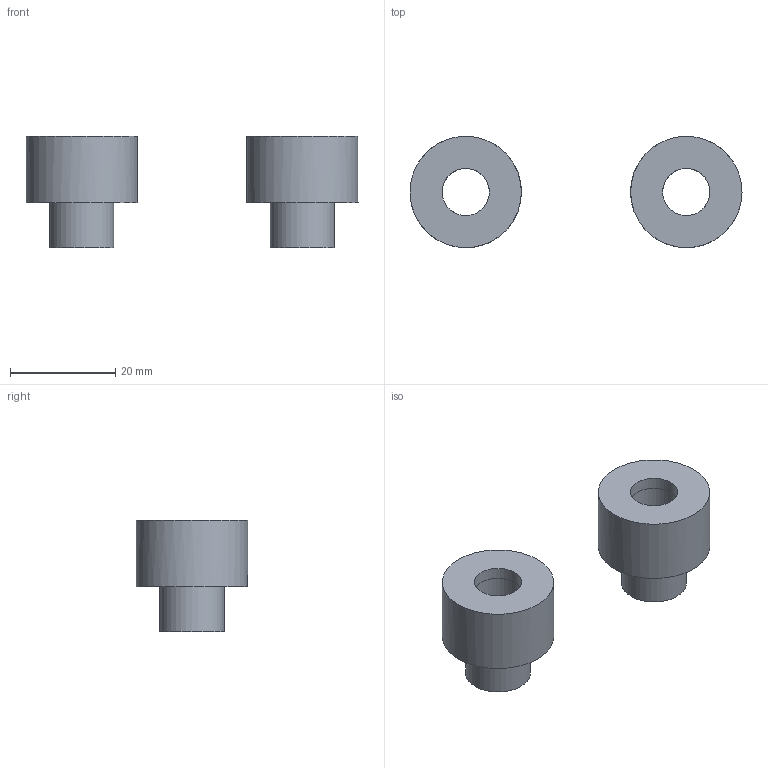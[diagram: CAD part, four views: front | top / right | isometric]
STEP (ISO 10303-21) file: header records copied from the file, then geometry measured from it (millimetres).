
FILE_DESCRIPTION(('HOOPS Exchange Step'),'2;1');
FILE_NAME('/var/folders/_s/95dhknh960bfclggtm3b9_pm0000gn/T/com.shapr3d.shapr/export/temp_export','2023-07-21T12:12:04+02:00',('bke'),('Shapr3D Limited'),'HOOPS Exchange 2022.2','Shapr3D','Authorized');
FILE_SCHEMA( ('AUTOMOTIVE_DESIGN { 1 0 10303 214 1 1 1 1 }') );
Length unit declared in the file: millimetre
Products named in the file (2): FIN rubber cushin; root
Assembly tree (1 placements, depth 2):
  root
    FIN rubber cushin
Bounding box: 63.2 x 21.2 x 21.3 mm (x, y, z)
Volume: 8730.7 mm3; surface area: 5727.1 mm2
Topology: 6 solids, 6 shells, 24 faces, 46 edges, 34 vertices
Faces by surface type: cylinder 12, plane 12
Full cylindrical faces by diameter (mm): 9 x6, 12.247 x4, 21.2 x2
Entity records: 719 total; most frequent: DIRECTION 132, CARTESIAN_POINT 106, ORIENTED_EDGE 92, AXIS2_PLACEMENT_3D 60, EDGE_CURVE 46, EDGE_LOOP 36, FACE_BOUND 36, VERTEX_POINT 34
